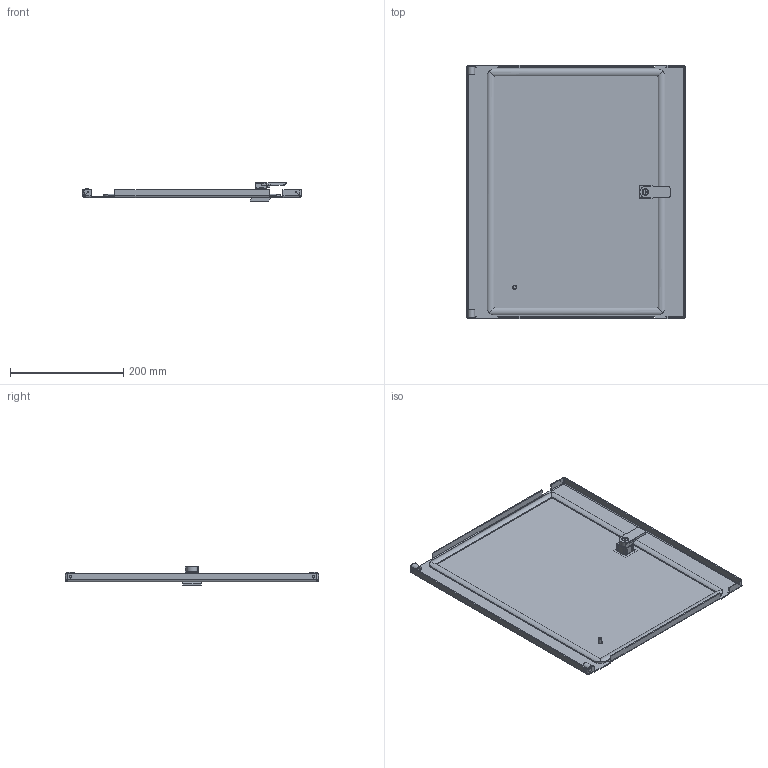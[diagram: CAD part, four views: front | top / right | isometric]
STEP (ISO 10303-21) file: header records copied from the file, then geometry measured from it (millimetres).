
FILE_DESCRIPTION(('STEP AP203'), '1');
FILE_NAME('Äâåðü ñåêöèîííàÿ 400õ400 ìì OptiBox M 419368 ÊÝÀÇ', '', ('UNSPECIFIED'), ('UNSPECIFIED'), 'C3D Converter', 'C3D Toolkit', '');
FILE_SCHEMA(('CONFIG_CONTROL_DESIGN'));
Length unit declared in the file: millimetre
Bounding box: 386.4 x 447 x 32.2 mm (x, y, z)
Volume: 463323.1 mm3; surface area: 436215.4 mm2
Topology: 6 solids, 6 shells, 355 faces, 928 edges, 588 vertices
Faces by surface type: plane 252, cylinder 92, bspline 8, cone 2, torus 1
Full cylindrical faces by diameter (mm): 0.75 x1, 1 x1, 3 x1, 5 x2, 6 x1, 7.5 x1, 9.3 x1, 10 x1, 20 x1
Entity records: 11864 total; most frequent: CARTESIAN_POINT 3095, ORIENTED_EDGE 1830, DIRECTION 1731, EDGE_CURVE 915, LINE 705, VECTOR 705, VERTEX_POINT 588, AXIS2_PLACEMENT_3D 513
